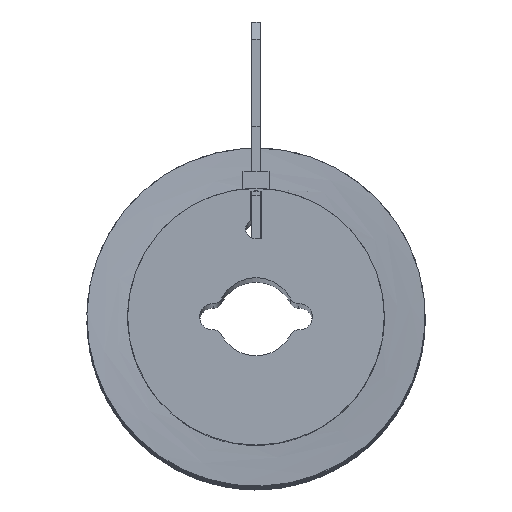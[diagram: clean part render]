
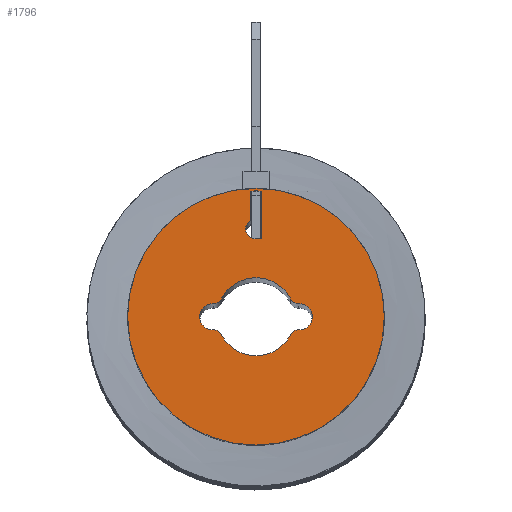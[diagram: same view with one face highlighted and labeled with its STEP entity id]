
A CAD part, top view. The second image highlights one B-rep face of the part: STEP entity #1796.
In plain terms, the highlighted planar face has unit normal (0, 0, 1).
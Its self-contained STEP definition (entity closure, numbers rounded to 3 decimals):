
#26=FACE_BOUND($,#279,.T.);
#27=FACE_BOUND($,#280,.T.);
#38=CIRCLE($,#1821,14.5);
#42=CIRCLE($,#1827,14.8);
#73=CIRCLE($,#1923,1.1);
#74=CIRCLE($,#1926,4.5);
#75=CIRCLE($,#1927,1.);
#76=CIRCLE($,#1928,1.5);
#77=CIRCLE($,#1929,1.);
#78=CIRCLE($,#1930,4.5);
#79=CIRCLE($,#1931,1.);
#80=CIRCLE($,#1932,1.5);
#81=CIRCLE($,#1933,1.);
#183=FACE_OUTER_BOUND($,#278,.T.);
#278=EDGE_LOOP($,(#1511));
#279=EDGE_LOOP($,(#1512,#1513,#1514,#1515,#1516));
#280=EDGE_LOOP($,(#1517,#1518,#1519,#1520,#1521,#1522,#1523,#1524));
#439=LINE($,#9357,#623);
#464=LINE($,#9411,#648);
#467=LINE($,#9420,#651);
#623=VECTOR($,#2286,0.7);
#648=VECTOR($,#2349,5.488);
#651=VECTOR($,#2360,3.408);
#686=VERTEX_POINT($,#9035);
#687=VERTEX_POINT($,#9037);
#691=VERTEX_POINT($,#9049);
#795=VERTEX_POINT($,#9354);
#796=VERTEX_POINT($,#9356);
#808=VERTEX_POINT($,#9415);
#809=VERTEX_POINT($,#9422);
#810=VERTEX_POINT($,#9423);
#811=VERTEX_POINT($,#9425);
#812=VERTEX_POINT($,#9427);
#813=VERTEX_POINT($,#9429);
#814=VERTEX_POINT($,#9431);
#815=VERTEX_POINT($,#9433);
#816=VERTEX_POINT($,#9435);
#855=EDGE_CURVE($,#687,#686,#38,.T.);
#861=EDGE_CURVE($,#691,#691,#42,.T.);
#1015=EDGE_CURVE($,#796,#795,#439,.T.);
#1043=EDGE_CURVE($,#686,#796,#464,.T.);
#1046=EDGE_CURVE($,#795,#808,#73,.T.);
#1048=EDGE_CURVE($,#808,#687,#467,.T.);
#1049=EDGE_CURVE($,#809,#810,#74,.T.);
#1050=EDGE_CURVE($,#810,#811,#75,.T.);
#1051=EDGE_CURVE($,#811,#812,#76,.T.);
#1052=EDGE_CURVE($,#812,#813,#77,.T.);
#1053=EDGE_CURVE($,#813,#814,#78,.T.);
#1054=EDGE_CURVE($,#814,#815,#79,.T.);
#1055=EDGE_CURVE($,#815,#816,#80,.T.);
#1056=EDGE_CURVE($,#816,#809,#81,.T.);
#1511=ORIENTED_EDGE($,*,*,#861,.T.);
#1512=ORIENTED_EDGE($,*,*,#1048,.T.);
#1513=ORIENTED_EDGE($,*,*,#855,.T.);
#1514=ORIENTED_EDGE($,*,*,#1043,.T.);
#1515=ORIENTED_EDGE($,*,*,#1015,.T.);
#1516=ORIENTED_EDGE($,*,*,#1046,.T.);
#1517=ORIENTED_EDGE($,*,*,#1049,.T.);
#1518=ORIENTED_EDGE($,*,*,#1050,.T.);
#1519=ORIENTED_EDGE($,*,*,#1051,.T.);
#1520=ORIENTED_EDGE($,*,*,#1052,.T.);
#1521=ORIENTED_EDGE($,*,*,#1053,.T.);
#1522=ORIENTED_EDGE($,*,*,#1054,.T.);
#1523=ORIENTED_EDGE($,*,*,#1055,.T.);
#1524=ORIENTED_EDGE($,*,*,#1056,.T.);
#1635=PLANE($,#1925);
#1796=ADVANCED_FACE($,(#183,#26,#27),#1635,.T.);
#1821=AXIS2_PLACEMENT_3D($,#9038,#1995,#1996);
#1827=AXIS2_PLACEMENT_3D($,#9050,#2009,#2010);
#1923=AXIS2_PLACEMENT_3D($,#9417,#2355,#2356);
#1925=AXIS2_PLACEMENT_3D($,#9421,#2361,#2362);
#1926=AXIS2_PLACEMENT_3D($,#9424,#2363,#2364);
#1927=AXIS2_PLACEMENT_3D($,#9426,#2365,#2366);
#1928=AXIS2_PLACEMENT_3D($,#9428,#2367,#2368);
#1929=AXIS2_PLACEMENT_3D($,#9430,#2369,#2370);
#1930=AXIS2_PLACEMENT_3D($,#9432,#2371,#2372);
#1931=AXIS2_PLACEMENT_3D($,#9434,#2373,#2374);
#1932=AXIS2_PLACEMENT_3D($,#9436,#2375,#2376);
#1933=AXIS2_PLACEMENT_3D($,#9437,#2377,#2378);
#1995=DIRECTION('center_axis',(0.,0.,
-1.));
#1996=DIRECTION('ref_axis',(-1.,0.,0.));
#2009=DIRECTION('center_axis',(0.,0.,
1.));
#2010=DIRECTION('ref_axis',(-1.,0.,0.));
#2286=DIRECTION($,(-1.,0.,0.));
#2349=DIRECTION($,(0.,-1.,0.));
#2355=DIRECTION('center_axis',(0.,0.,-1.));
#2356=DIRECTION('ref_axis',(0.455,-0.891,0.));
#2360=DIRECTION($,(0.,1.,0.));
#2361=DIRECTION('center_axis',(0.,0.,1.));
#2362=DIRECTION('ref_axis',(1.,0.,0.));
#2363=DIRECTION('center_axis',(0.,0.,-1.));
#2364=DIRECTION('ref_axis',(0.891,0.454,0.));
#2365=DIRECTION('center_axis',(0.,0.,1.));
#2366=DIRECTION('ref_axis',(0.891,0.454,0.));
#2367=DIRECTION('center_axis',(0.,0.,-1.));
#2368=DIRECTION('ref_axis',(-0.04,-0.999,0.));
#2369=DIRECTION('center_axis',(0.,0.,1.));
#2370=DIRECTION('ref_axis',(-0.04,-0.999,0.));
#2371=DIRECTION('center_axis',(0.,0.,-1.));
#2372=DIRECTION('ref_axis',(-0.891,-0.454,0.));
#2373=DIRECTION('center_axis',(0.,0.,1.));
#2374=DIRECTION('ref_axis',(-0.891,-0.454,0.));
#2375=DIRECTION('center_axis',(0.,0.,-1.));
#2376=DIRECTION('ref_axis',(0.04,0.999,0.));
#2377=DIRECTION('center_axis',(0.,0.,1.));
#2378=DIRECTION('ref_axis',(0.04,0.999,0.));
#9035=CARTESIAN_POINT('',(0.6,14.488,150.));
#9037=CARTESIAN_POINT('',(-0.6,14.488,150.));
#9038=CARTESIAN_POINT('Origin',(0.,0.,
150.));
#9049=CARTESIAN_POINT('',(14.8,0.,150.));
#9050=CARTESIAN_POINT('Origin',(0.,0.,
150.));
#9354=CARTESIAN_POINT('',(-0.1,9.,150.));
#9356=CARTESIAN_POINT('',(0.6,9.,150.));
#9357=CARTESIAN_POINT($,(-0.05,9.,150.));
#9411=CARTESIAN_POINT($,(0.6,4.5,150.));
#9415=CARTESIAN_POINT('',(-0.6,11.08,150.));
#9417=CARTESIAN_POINT('Origin',(-0.1,10.1,150.));
#9420=CARTESIAN_POINT($,(-0.6,7.244,150.));
#9421=CARTESIAN_POINT('Origin',(0.,0.,150.));
#9422=CARTESIAN_POINT('',(-4.009,2.044,150.));
#9423=CARTESIAN_POINT('',(4.009,2.044,150.));
#9424=CARTESIAN_POINT('Origin',(0.,0.,150.));
#9425=CARTESIAN_POINT('',(4.94,1.499,150.));
#9426=CARTESIAN_POINT('Origin',(4.9,2.498,150.));
#9427=CARTESIAN_POINT('',(4.94,-1.499,150.));
#9428=CARTESIAN_POINT('Origin',(5.,0.,150.));
#9429=CARTESIAN_POINT('',(4.009,-2.044,150.));
#9430=CARTESIAN_POINT('Origin',(4.9,-2.498,150.));
#9431=CARTESIAN_POINT('',(-4.009,-2.044,150.));
#9432=CARTESIAN_POINT('Origin',(0.,0.,150.));
#9433=CARTESIAN_POINT('',(-4.94,-1.499,150.));
#9434=CARTESIAN_POINT('Origin',(-4.9,-2.498,150.));
#9435=CARTESIAN_POINT('',(-4.94,1.499,150.));
#9436=CARTESIAN_POINT('Origin',(-5.,0.,150.));
#9437=CARTESIAN_POINT('Origin',(-4.9,2.498,150.));
